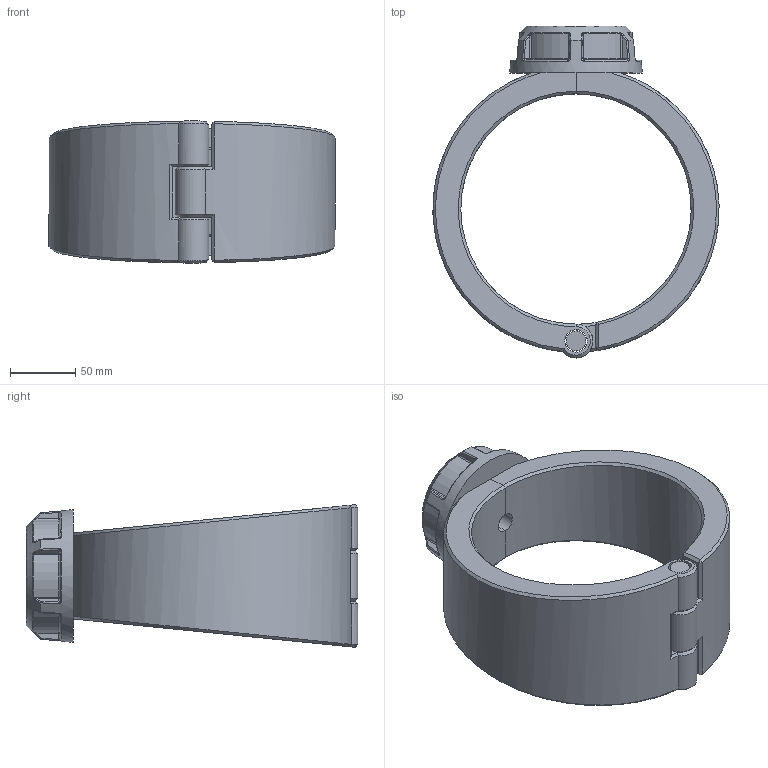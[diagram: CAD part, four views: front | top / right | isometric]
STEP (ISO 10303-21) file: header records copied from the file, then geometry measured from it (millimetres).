
FILE_DESCRIPTION(/* description */ ('Plassadle Threaded 177x1'''''),/* implementation_level */ '2;1');
FILE_NAME(/* name */ 'C:\Users\comp2\Dropbox\99-16-3568-Processing\Mechanical Fittings\16300\stp\163000177010.stp',/* time_stamp */ '2022-02-03T11:52:01+00:00',/* author */ ('comp2'),/* organization */ (''),/* preprocessor_version */ 'ST-DEVELOPER v17.2',/* originating_system */ 'Autodesk Inventor 2019',/* authorisation */ '');
FILE_SCHEMA (('AUTOMOTIVE_DESIGN { 1 0 10303 214 3 1 1 }'));
Length unit declared in the file: millimetre
Products named in the file (1): 163000177010
Bounding box: 219.89 x 255 x 109.6 mm (x, y, z)
Volume: 1344629.6 mm3; surface area: 178383.1 mm2
Topology: 4 solids, 4 shells, 203 faces, 486 edges, 293 vertices
Faces by surface type: bspline 58, plane 53, cylinder 47, torus 18, cone 15, sphere 12
Full cylindrical faces by diameter (mm): 15.146 x1, 15.3 x1, 17.3 x3, 25.747 x1, 30.291 x1, 45.437 x1
Entity records: 8250 total; most frequent: CARTESIAN_POINT 3903, ORIENTED_EDGE 972, DIRECTION 781, EDGE_CURVE 486, AXIS2_PLACEMENT_3D 330, VERTEX_POINT 293, EDGE_LOOP 213, FACE_OUTER_BOUND 203
